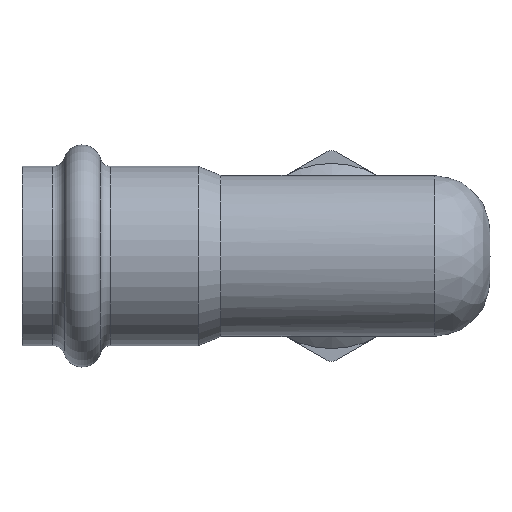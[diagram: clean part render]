
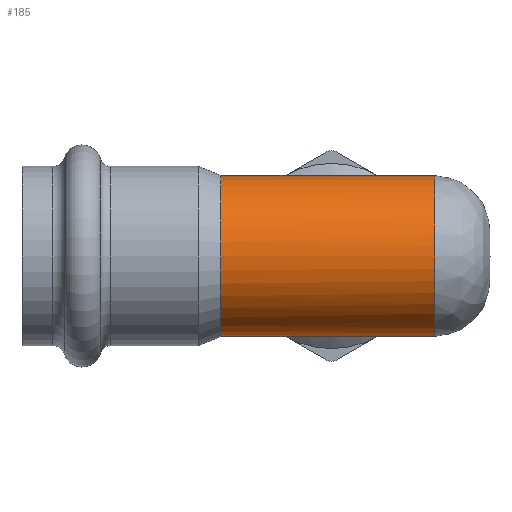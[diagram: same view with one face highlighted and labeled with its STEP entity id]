
A CAD part, front view. The second image highlights one B-rep face of the part: STEP entity #185.
In plain terms, the highlighted cylindrical face has radius 16 mm (diameter 32 mm), a full revolution.
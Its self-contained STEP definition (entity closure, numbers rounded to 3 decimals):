
#185=ADVANCED_FACE('',(#247,#248,#249),#225,.T.);
#225=CYLINDRICAL_SURFACE('',#644,16.);
#241=B_SPLINE_CURVE_WITH_KNOTS('',3,(#938,#939,#940,#941,#942,#943,#944,
#945,#946,#947,#948,#949,#950,#951,#952,#953,#954,#955,#956,#957,#958,#959,
#960,#961,#962,#963,#964,#965,#966,#967,#968,#969,#970,#971),.UNSPECIFIED.,
 .T.,.F.,(2,2,2,2,2,2,2,2,2,2,2,2,2,2,2,2,2,2,2),(-0.063,0.,0.063,0.125,
0.188,0.25,0.313,0.375,0.438,0.5,0.563,0.625,0.688,0.75,0.813,0.875,
0.938,1.,1.063),.UNSPECIFIED.);
#242=B_SPLINE_CURVE_WITH_KNOTS('',3,(#973,#974,#975,#976,#977,#978,#979,
#980,#981,#982,#983,#984,#985,#986,#987,#988,#989,#990),.UNSPECIFIED.,.T.,
 .F.,(2,2,2,2,2,2,2,2,2,2,2),(-0.125,0.,0.125,0.25,0.375,0.5,0.625,0.75,
0.875,1.,1.125),.UNSPECIFIED.);
#247=FACE_BOUND('',#301,.T.);
#248=FACE_BOUND('',#302,.T.);
#249=FACE_BOUND('',#303,.T.);
#301=EDGE_LOOP('',(#369));
#302=EDGE_LOOP('',(#370));
#303=EDGE_LOOP('',(#371));
#369=ORIENTED_EDGE('',*,*,#546,.T.);
#370=ORIENTED_EDGE('',*,*,#547,.F.);
#371=ORIENTED_EDGE('',*,*,#548,.T.);
#495=VERTEX_POINT('',#972);
#496=VERTEX_POINT('',#991);
#497=VERTEX_POINT('',#993);
#546=EDGE_CURVE('',#495,#495,#241,.T.);
#547=EDGE_CURVE('',#496,#496,#242,.T.);
#548=EDGE_CURVE('',#497,#497,#607,.T.);
#607=CIRCLE('',#643,16.);
#643=AXIS2_PLACEMENT_3D('',#992,#718,#719);
#644=AXIS2_PLACEMENT_3D('',#994,#720,#721);
#718=DIRECTION('',(1.,0.,0.));
#719=DIRECTION('',(0.,1.,0.));
#720=DIRECTION('',(1.,0.,0.));
#721=DIRECTION('',(0.,1.,0.));
#938=CARTESIAN_POINT('',(-13.7,16.,1.859));
#939=CARTESIAN_POINT('',(-13.7,16.,-1.859));
#940=CARTESIAN_POINT('',(-13.265,15.666,-3.666));
#941=CARTESIAN_POINT('',(-11.75,14.555,-6.857));
#942=CARTESIAN_POINT('',(-10.697,13.798,-8.214));
#943=CARTESIAN_POINT('',(-8.236,12.211,-10.428));
#944=CARTESIAN_POINT('',(-6.813,11.362,-11.302));
#945=CARTESIAN_POINT('',(-3.645,9.988,-12.534));
#946=CARTESIAN_POINT('',(-1.828,9.471,-12.896));
#947=CARTESIAN_POINT('',(1.855,9.476,-12.892));
#948=CARTESIAN_POINT('',(3.649,9.988,-12.534));
#949=CARTESIAN_POINT('',(6.833,11.373,-11.293));
#950=CARTESIAN_POINT('',(8.234,12.21,-10.43));
#951=CARTESIAN_POINT('',(10.705,13.804,-8.206));
#952=CARTESIAN_POINT('',(11.736,14.545,-6.877));
#953=CARTESIAN_POINT('',(13.254,15.658,-3.698));
#954=CARTESIAN_POINT('',(13.695,15.996,-1.867));
#955=CARTESIAN_POINT('',(13.705,16.004,1.804));
#956=CARTESIAN_POINT('',(13.278,15.676,3.623));
#957=CARTESIAN_POINT('',(11.775,14.573,6.819));
#958=CARTESIAN_POINT('',(10.725,13.817,8.182));
#959=CARTESIAN_POINT('',(8.264,12.228,10.409));
#960=CARTESIAN_POINT('',(6.842,11.378,11.287));
#961=CARTESIAN_POINT('',(3.673,9.997,12.527));
#962=CARTESIAN_POINT('',(1.863,9.476,12.892));
#963=CARTESIAN_POINT('',(-1.834,9.471,12.896));
#964=CARTESIAN_POINT('',(-3.63,9.982,12.539));
#965=CARTESIAN_POINT('',(-6.815,11.363,11.302));
#966=CARTESIAN_POINT('',(-8.224,12.204,10.437));
#967=CARTESIAN_POINT('',(-10.694,13.796,8.218));
#968=CARTESIAN_POINT('',(-11.747,14.553,6.861));
#969=CARTESIAN_POINT('',(-13.265,15.665,3.668));
#970=CARTESIAN_POINT('',(-13.7,16.,1.859));
#971=CARTESIAN_POINT('',(-13.7,16.,-1.859));
#972=CARTESIAN_POINT('',(-13.7,16.,0.));
#973=CARTESIAN_POINT('',(20.477,-16.,4.189));
#974=CARTESIAN_POINT('',(20.477,-16.,-4.189));
#975=CARTESIAN_POINT('',(20.477,-14.276,-8.352));
#976=CARTESIAN_POINT('',(20.477,-8.352,-14.276));
#977=CARTESIAN_POINT('',(20.477,-4.189,-16.));
#978=CARTESIAN_POINT('',(20.477,4.189,-16.));
#979=CARTESIAN_POINT('',(20.477,8.352,-14.276));
#980=CARTESIAN_POINT('',(20.477,14.276,-8.352));
#981=CARTESIAN_POINT('',(20.477,16.,-4.189));
#982=CARTESIAN_POINT('',(20.477,16.,4.189));
#983=CARTESIAN_POINT('',(20.477,14.276,8.352));
#984=CARTESIAN_POINT('',(20.477,8.352,14.276));
#985=CARTESIAN_POINT('',(20.477,4.189,16.));
#986=CARTESIAN_POINT('',(20.477,-4.189,16.));
#987=CARTESIAN_POINT('',(20.477,-8.352,14.276));
#988=CARTESIAN_POINT('',(20.477,-14.276,8.352));
#989=CARTESIAN_POINT('',(20.477,-16.,4.189));
#990=CARTESIAN_POINT('',(20.477,-16.,-4.189));
#991=CARTESIAN_POINT('',(20.477,-16.,0.));
#992=CARTESIAN_POINT('',(-22.,0.,0.));
#993=CARTESIAN_POINT('',(-22.,16.,0.));
#994=CARTESIAN_POINT('',(-61.477,0.,0.));
